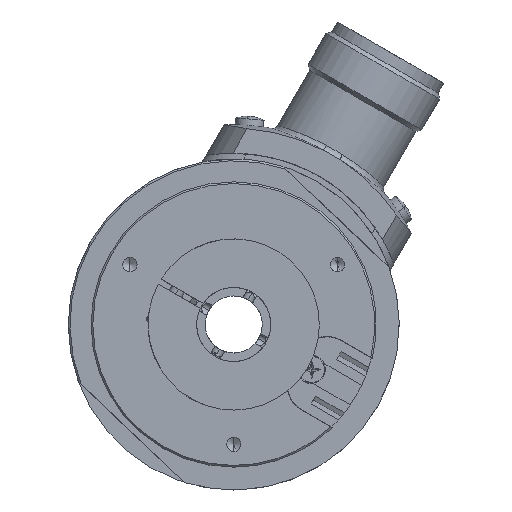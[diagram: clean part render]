
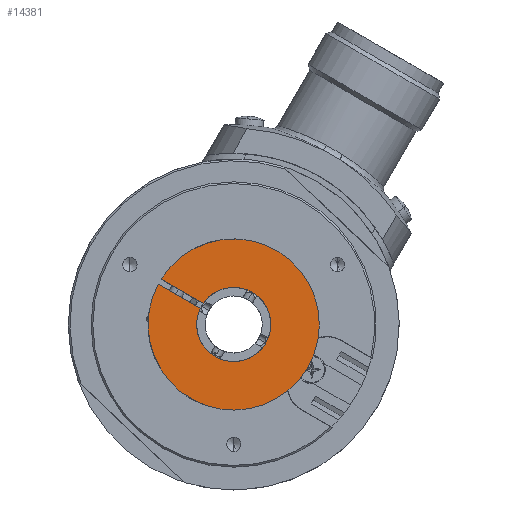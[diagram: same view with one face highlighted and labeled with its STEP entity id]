
A CAD part, left-side view. The second image highlights one B-rep face of the part: STEP entity #14381.
In plain terms, the highlighted planar face has unit normal (-1, 0, 0).
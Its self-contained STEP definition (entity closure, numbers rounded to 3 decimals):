
#14260 = VERTEX_POINT ( 'NONE', #32419 ) ;
#14262 = EDGE_CURVE ( 'NONE', #14260, #14273, #32479, .T. ) ;
#14273 = VERTEX_POINT ( 'NONE', #32496 ) ;
#14275 = EDGE_CURVE ( 'NONE', #14273, #14276, #32495, .T. ) ;
#14276 = VERTEX_POINT ( 'NONE', #32490 ) ;
#14288 = VERTEX_POINT ( 'NONE', #32557 ) ;
#14290 = EDGE_CURVE ( 'NONE', #14288, #14291, #32556, .T. ) ;
#14291 = VERTEX_POINT ( 'NONE', #32551 ) ;
#14300 = ORIENTED_EDGE ( 'NONE', *, *, #14290, .F. ) ;
#14301 = ORIENTED_EDGE ( 'NONE', *, *, #14318, .F. ) ;
#14302 = ORIENTED_EDGE ( 'NONE', *, *, #14329, .F. ) ;
#14305 = EDGE_CURVE ( 'NONE', #14291, #14260, #32585, .T. ) ;
#14318 = EDGE_CURVE ( 'NONE', #14330, #14288, #32602, .T. ) ;
#14329 = EDGE_CURVE ( 'NONE', #14276, #14330, #32671, .T. ) ;
#14330 = VERTEX_POINT ( 'NONE', #32667 ) ;
#14364 = ORIENTED_EDGE ( 'NONE', *, *, #14275, .F. ) ;
#14381 = ADVANCED_FACE ( 'NONE', ( #32788 ), #32823, .F. ) ;
#14382 = EDGE_LOOP ( 'NONE', ( #14383, #14384, #14300, #14301, #14302, #14364 ) ) ;
#14383 = ORIENTED_EDGE ( 'NONE', *, *, #14262, .F. ) ;
#14384 = ORIENTED_EDGE ( 'NONE', *, *, #14305, .F. ) ;
#32419 = CARTESIAN_POINT ( 'NONE',  ( -7., 5.862, 2.807 ) ) ;
#32475 = DIRECTION ( 'NONE',  ( 0., 0.866, 0.5 ) ) ;
#32476 = DIRECTION ( 'NONE',  ( -1., 0., 0. ) ) ;
#32477 = CARTESIAN_POINT ( 'NONE',  ( -7., 0., 0. ) ) ;
#32478 = AXIS2_PLACEMENT_3D ( 'NONE', #32477, #32476, #32475 ) ;
#32479 = CIRCLE ( 'NONE', #32478, 6.5 ) ;
#32490 = CARTESIAN_POINT ( 'NONE',  ( -7., 5.362, 3.673 ) ) ;
#32491 = DIRECTION ( 'NONE',  ( 0., 0.866, 0.5 ) ) ;
#32492 = DIRECTION ( 'NONE',  ( -1., 0., 0. ) ) ;
#32493 = CARTESIAN_POINT ( 'NONE',  ( -7., 0., 0. ) ) ;
#32494 = AXIS2_PLACEMENT_3D ( 'NONE', #32493, #32492, #32491 ) ;
#32495 = CIRCLE ( 'NONE', #32494, 6.5 ) ;
#32496 = CARTESIAN_POINT ( 'NONE',  ( -7., -5.629, -3.25 ) ) ;
#32551 = CARTESIAN_POINT ( 'NONE',  ( -7., 13.233, 7.063 ) ) ;
#32552 = DIRECTION ( 'NONE',  ( 0., 0.866, 0.5 ) ) ;
#32553 = DIRECTION ( 'NONE',  ( 1., 0., 0. ) ) ;
#32554 = CARTESIAN_POINT ( 'NONE',  ( -7., 0., 0. ) ) ;
#32555 = AXIS2_PLACEMENT_3D ( 'NONE', #32554, #32553, #32552 ) ;
#32556 = CIRCLE ( 'NONE', #32555, 15. ) ;
#32557 = CARTESIAN_POINT ( 'NONE',  ( -7., -12.99, -7.5 ) ) ;
#32582 = DIRECTION ( 'NONE',  ( 0., -0.866, -0.5 ) ) ;
#32583 = VECTOR ( 'NONE', #32582, 1000. ) ;
#32584 = CARTESIAN_POINT ( 'NONE',  ( -7., 5.862, 2.807 ) ) ;
#32585 = LINE ( 'NONE', #32584, #32583 ) ;
#32598 = DIRECTION ( 'NONE',  ( 0., 0.866, 0.5 ) ) ;
#32599 = DIRECTION ( 'NONE',  ( 1., 0., 0. ) ) ;
#32600 = CARTESIAN_POINT ( 'NONE',  ( -7., 0., 0. ) ) ;
#32601 = AXIS2_PLACEMENT_3D ( 'NONE', #32600, #32599, #32598 ) ;
#32602 = CIRCLE ( 'NONE', #32601, 15. ) ;
#32667 = CARTESIAN_POINT ( 'NONE',  ( -7., 12.733, 7.929 ) ) ;
#32668 = DIRECTION ( 'NONE',  ( 0., 0.866, 0.5 ) ) ;
#32669 = VECTOR ( 'NONE', #32668, 1000. ) ;
#32670 = CARTESIAN_POINT ( 'NONE',  ( -7., 5.362, 3.673 ) ) ;
#32671 = LINE ( 'NONE', #32670, #32669 ) ;
#32788 = FACE_OUTER_BOUND ( 'NONE', #14382, .T. ) ;
#32819 = DIRECTION ( 'NONE',  ( 0., 0.866, 0.5 ) ) ;
#32820 = DIRECTION ( 'NONE',  ( 1., 0., 0. ) ) ;
#32821 = CARTESIAN_POINT ( 'NONE',  ( -7., 0., 0. ) ) ;
#32822 = AXIS2_PLACEMENT_3D ( 'NONE', #32821, #32820, #32819 ) ;
#32823 = PLANE ( 'NONE',  #32822 ) ;
